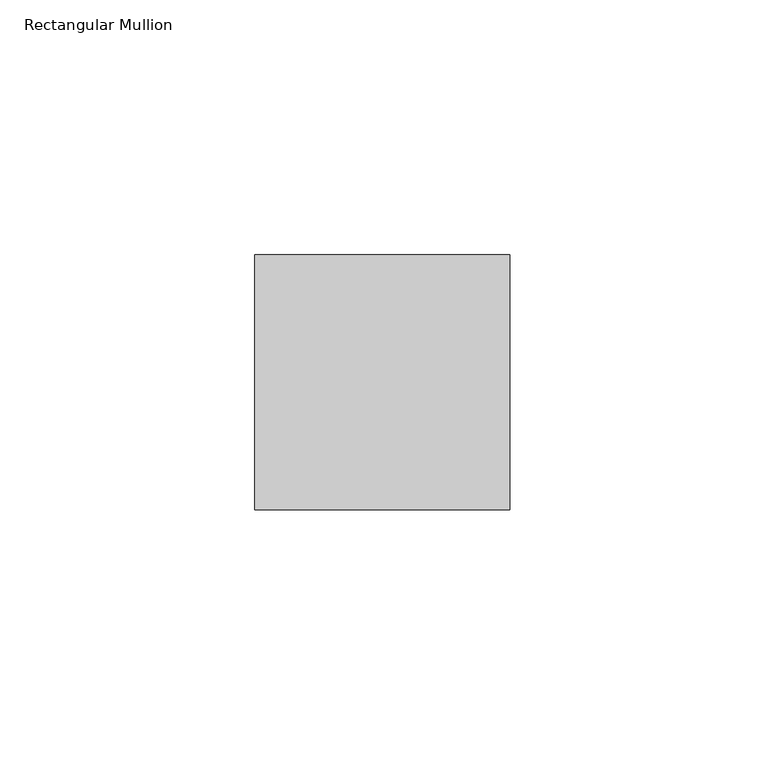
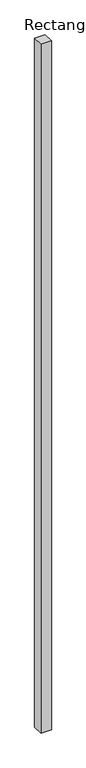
"""IFC4 building model written with IfcOpenShell, lengths in millimetres: member geometry, Rectangular Mullion : Mullion_Curtain Wall_Generic Showcase_50x50mm."""

from ifc_helpers import new_model, si_unit, frame, origin, place, context, project, spatial, polyline, outline, extrude, source, transform, mapped, element, save


def rectangular_mullion_c5e4a414(model_context):
    return source(origin(), model_context, "Body", "SweptSolid", [
        extrude(outline(polyline([(25.0, 50.0), (25.0, 0.0), (-25.0, 0.0), (-25.0, 50.0), (25.0, 50.0)])), frame((0.0, 0.0, -3450.0), z_axis=(0.0, 0.0, 1.0), x_axis=(1.0, 0.0, 0.0)), (0.0, 0.0, 1.0), 3450.0),
    ])


if __name__ == "__main__":
    model = new_model("IFC4")
    model_context = context("Model", 3, world=origin())
    ifc_project = project(units=[si_unit("LENGTHUNIT", "METRE", prefix="MILLI")], contexts=[model_context])
    site = spatial("IfcSite", under=ifc_project)
    building = spatial("IfcBuilding", under=site)
    placement = place(None, origin())
    rectangular_mullion_shape = rectangular_mullion_c5e4a414(model_context)
    element("IfcMember", 1, ObjectType="Rectangular Mullion : Mullion_Curtain Wall_Generic Showcase_50x50mm", at=placement, inside=building, context=model_context, shape_type="MappedRepresentation", body=[
        mapped(rectangular_mullion_shape, transform((0.0, 0.0, 0.0), x_axis=(1.0, 0.0, 0.0), y_axis=(0.0, 1.0, 0.0), z_axis=(0.0, 0.0, 1.0))),
    ])
    save(model, "model.ifc")
